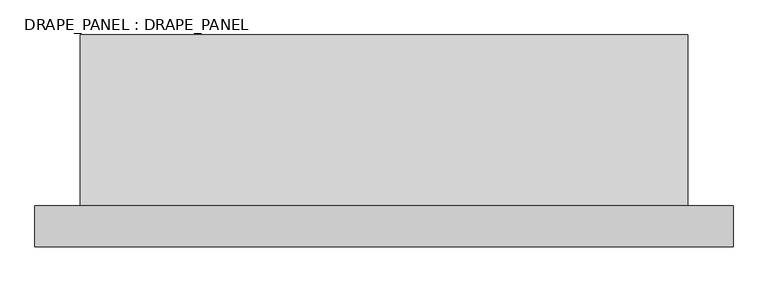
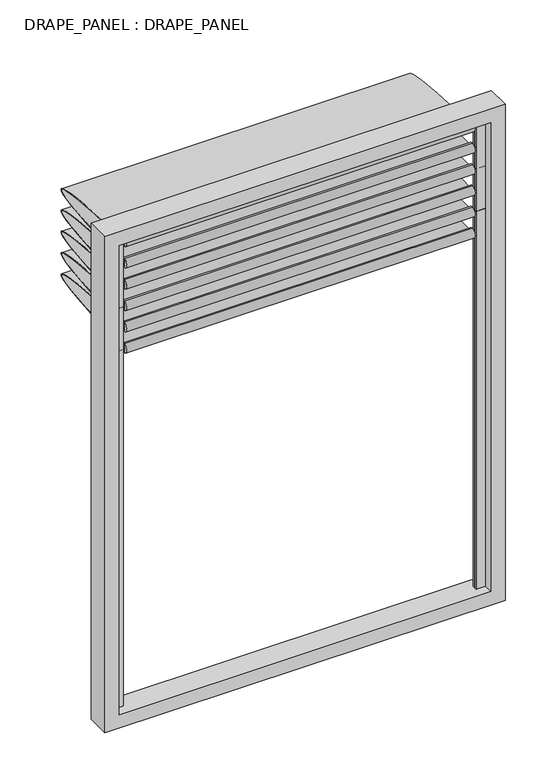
"""IFC4 building model written with IfcOpenShell, lengths in millimetres: plate geometry, DRAPE_PANEL : DRAPE_PANEL."""

from ifc_helpers import new_model, si_unit, point, frame, origin, place, context, project, spatial, polyline, circle_curve, ellipse_curve, trimmed, outline, extrude, source, transform, mapped, element, save
from ifc_brep_helpers import plane_surface, cylinder_surface, extruded_surface, advanced_brep


def drape_panel_drape_panel_1e58a187(model_context):
    return source(origin(), model_context, "Body", "SolidModel", [
        advanced_brep(
        [(-790.0, 0.0, 1851.5019792), (-790.0, 0.0, 1856.5019792), (-790.0, 0.0, 1846.5019792), (790.0, 0.0, 1846.5019792), (790.0, 0.0, 1856.5019792), (790.0, 0.0, 1851.5019792), (740.0, 0.0, 1846.5019792), (740.0, 0.0, 1856.5019792), (740.0, 0.0, 1831.5019792), (740.0, 0.0, 1871.5019792), (-740.0, 0.0, 1831.5019792), (-740.0, 0.0, 1871.5019792), (-740.0, 0.0, 1846.5019792), (-740.0, 0.0, 1856.5019792)],
        [
            (0, 1),
            (1, 2, circle_curve(frame((-790.0, 0.0, 1851.5019792), z_axis=(-1.0, 0.0, 0.0), x_axis=(0.0, 0.0, 1.0)), 5.0)),
            (2, 0),
            (2, 1, circle_curve(frame((-790.0, 0.0, 1851.5019792), z_axis=(-1.0, 0.0, 0.0), x_axis=(0.0, 0.0, 1.0)), 5.0)),
            (3, 4, circle_curve(frame((790.0, 0.0, 1851.5019792), z_axis=(1.0, 0.0, 0.0), x_axis=(0.0, 0.0, 1.0)), 5.0)),
            (4, 5),
            (5, 3),
            (4, 3, circle_curve(frame((790.0, 0.0, 1851.5019792), z_axis=(1.0, 0.0, 0.0), x_axis=(0.0, 0.0, 1.0)), 5.0)),
            (6, 7, circle_curve(frame((740.0, 0.0, 1851.5019792), z_axis=(1.0, 0.0, 0.0), x_axis=(0.0, 0.0, 1.0)), 5.0)),
            (7, 4),
            (3, 6),
            (7, 6, circle_curve(frame((740.0, 0.0, 1851.5019792), z_axis=(1.0, 0.0, 0.0), x_axis=(0.0, 0.0, 1.0)), 5.0)),
            (8, 9, circle_curve(frame((740.0, 0.0, 1851.5019792), z_axis=(1.0, 0.0, 0.0), x_axis=(0.0, 0.0, 1.0)), 20.0)),
            (9, 7),
            (6, 8),
            (9, 8, circle_curve(frame((740.0, 0.0, 1851.5019792), z_axis=(1.0, 0.0, 0.0), x_axis=(0.0, 0.0, 1.0)), 20.0)),
            (10, 11, circle_curve(frame((-740.0, 0.0, 1851.5019792), z_axis=(1.0, 0.0, 0.0), x_axis=(0.0, 0.0, 1.0)), 20.0)),
            (11, 9),
            (8, 10),
            (11, 10, circle_curve(frame((-740.0, 0.0, 1851.5019792), z_axis=(1.0, 0.0, 0.0), x_axis=(0.0, 0.0, 1.0)), 20.0)),
            (12, 13, circle_curve(frame((-740.0, 0.0, 1851.5019792), z_axis=(1.0, 0.0, 0.0), x_axis=(0.0, 0.0, 1.0)), 5.0)),
            (13, 11),
            (10, 12),
            (13, 12, circle_curve(frame((-740.0, 0.0, 1851.5019792), z_axis=(1.0, 0.0, 0.0), x_axis=(0.0, 0.0, 1.0)), 5.0)),
            (1, 13),
            (12, 2),
        ],
        [
            plane_surface(frame((-790.0, 0.0, 1851.5019792), z_axis=(-1.0, 0.0, 0.0), x_axis=(0.0, 0.0, 1.0))),
            plane_surface(frame((790.0, 0.0, 1851.5019792), z_axis=(1.0, 0.0, 0.0), x_axis=(0.0, 0.0, 1.0))),
            cylinder_surface(frame((6238.8752301, 0.0, 1851.5019792), z_axis=(-1.0, 0.0, 0.0), x_axis=(0.0, 0.0, 1.0)), 5.0),
            plane_surface(frame((740.0, 0.0, 1851.5019792), z_axis=(1.0, 0.0, 0.0), x_axis=(0.0, 0.0, 1.0))),
            cylinder_surface(frame((6238.8752301, 0.0, 1851.5019792), z_axis=(-1.0, 0.0, 0.0), x_axis=(0.0, 0.0, 1.0)), 20.0),
            plane_surface(frame((-740.0, 0.0, 1851.5019792), z_axis=(-1.0, 0.0, 0.0), x_axis=(0.0, 0.0, 1.0))),
        ],
        [
            (0, [[1, 2, 3]]),
            (0, [[-3, 4, -1]]),
            (1, [[5, 6, 7]]),
            (1, [[8, -7, -6]]),
            (2, [[9, 10, -5, 11]]),
            (2, [[12, -11, -8, -10]]),
            (3, [[13, 14, -9, 15]]),
            (3, [[16, -15, -12, -14]]),
            (4, [[17, 18, -13, 19]]),
            (4, [[20, -19, -16, -18]]),
            (5, [[21, 22, -17, 23]]),
            (5, [[24, -23, -20, -22]]),
            (2, [[-2, 25, -21, 26]]),
            (2, [[-4, -26, -24, -25]]),
        ],
    ),
        advanced_brep(
        [(740.0, 0.0, 1851.5019792), (740.0, 0.0, 1848.5019792), (740.0, 0.0, 1758.7509896), (740.0, 0.0, 1755.7509896), (-740.0, 0.0, 1851.5019792), (-740.0, 0.0, 1755.7509896), (-740.0, 0.0, 1758.7509896), (-740.0, 0.0, 1848.5019792)],
        [
            (0, 1),
            (1, 2, ellipse_curve(frame((740.0, 0.0, 1803.6264844), z_axis=(-1.0, 0.0, 0.0), x_axis=(0.0, -1.0, 0.0)), 462.4091228, 44.8754948)),
            (2, 3),
            (3, 0, ellipse_curve(frame((740.0, 0.0, 1803.6264844), z_axis=(1.0, 0.0, 0.0), x_axis=(0.0, 1.0, 0.0)), 465.4091228, 47.8754948)),
            (4, 5, ellipse_curve(frame((-740.0, 0.0, 1803.6264844), z_axis=(-1.0, 0.0, 0.0), x_axis=(0.0, 0.0, -1.0)), 47.8754948, 465.4091228)),
            (5, 6),
            (6, 7, ellipse_curve(frame((-740.0, 0.0, 1803.6264844), z_axis=(1.0, 0.0, 0.0), x_axis=(0.0, 0.0, -1.0)), 44.8754948, 462.4091228)),
            (7, 4),
            (0, 4),
            (7, 1),
            (6, 2),
            (5, 3),
        ],
        [
            plane_surface(frame((740.0, 0.0, 1851.5019792), z_axis=(1.0, 0.0, 0.0), x_axis=(0.0, -3.558757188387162e-12, -1.0))),
            plane_surface(frame((-740.0, 0.0, 1851.5019792), z_axis=(-1.0, 0.0, 0.0), x_axis=(0.0, 3.558757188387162e-12, 1.0))),
            plane_surface(frame((740.0, 0.0, 1851.5019792), z_axis=(0.0, -1.0, 3.558757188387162e-12), x_axis=(-1.0, 0.0, 0.0))),
            extruded_surface(trimmed(ellipse_curve(frame((-2220.0, 0.0, 1803.6264844), z_axis=(-1.0, 0.0, 0.0), x_axis=(0.0, 0.0, -1.0)), 44.8754948, 462.4091228), [point((-2220.0, 0.0, 1848.5019792))], [point((-2220.0, 0.0, 1758.7509896))], True, "CARTESIAN"), (1480.0, 0.0, 0.0), 1480.0),
            plane_surface(frame((740.0, 0.0, 1758.7509896), z_axis=(0.0, -1.0, 0.0), x_axis=(-1.0, 0.0, 0.0))),
            extruded_surface(trimmed(ellipse_curve(frame((-2220.0, 0.0, 1803.6264844), z_axis=(1.0, 0.0, 0.0), x_axis=(0.0, 0.0, -1.0)), 47.8754948, 465.4091228), [point((-2220.0, 0.0, 1755.7509896))], [point((-2220.0, 0.0, 1851.5019792))], True, "CARTESIAN"), (1480.0, 0.0, 0.0), 1480.0),
        ],
        [
            (0, [[1, 2, 3, 4]]),
            (1, [[5, 6, 7, 8]]),
            (2, [[-1, 9, -8, 10]]),
            (3, [[-2, -10, -7, 11]]),
            (4, [[-3, -11, -6, 12]]),
            (5, [[-4, -12, -5, -9]]),
        ],
    ),
        advanced_brep(
        [(-790.0, 0.0, 1947.2529688), (-790.0, 0.0, 1952.2529688), (-790.0, 0.0, 1942.2529688), (790.0, 0.0, 1942.2529688), (790.0, 0.0, 1952.2529688), (790.0, 0.0, 1947.2529688), (740.0, 0.0, 1942.2529688), (740.0, 0.0, 1952.2529688), (740.0, 0.0, 1927.2529688), (740.0, 0.0, 1967.2529688), (-740.0, 0.0, 1927.2529688), (-740.0, 0.0, 1967.2529688), (-740.0, 0.0, 1942.2529688), (-740.0, 0.0, 1952.2529688)],
        [
            (0, 1),
            (1, 2, circle_curve(frame((-790.0, 0.0, 1947.2529688), z_axis=(-1.0, 0.0, 0.0), x_axis=(0.0, 0.0, 1.0)), 5.0)),
            (2, 0),
            (2, 1, circle_curve(frame((-790.0, 0.0, 1947.2529688), z_axis=(-1.0, 0.0, 0.0), x_axis=(0.0, 0.0, 1.0)), 5.0)),
            (3, 4, circle_curve(frame((790.0, 0.0, 1947.2529688), z_axis=(1.0, 0.0, 0.0), x_axis=(0.0, 0.0, 1.0)), 5.0)),
            (4, 5),
            (5, 3),
            (4, 3, circle_curve(frame((790.0, 0.0, 1947.2529688), z_axis=(1.0, 0.0, 0.0), x_axis=(0.0, 0.0, 1.0)), 5.0)),
            (6, 7, circle_curve(frame((740.0, 0.0, 1947.2529688), z_axis=(1.0, 0.0, 0.0), x_axis=(0.0, 0.0, 1.0)), 5.0)),
            (7, 4),
            (3, 6),
            (7, 6, circle_curve(frame((740.0, 0.0, 1947.2529688), z_axis=(1.0, 0.0, 0.0), x_axis=(0.0, 0.0, 1.0)), 5.0)),
            (8, 9, circle_curve(frame((740.0, 0.0, 1947.2529688), z_axis=(1.0, 0.0, 0.0), x_axis=(0.0, 0.0, 1.0)), 20.0)),
            (9, 7),
            (6, 8),
            (9, 8, circle_curve(frame((740.0, 0.0, 1947.2529688), z_axis=(1.0, 0.0, 0.0), x_axis=(0.0, 0.0, 1.0)), 20.0)),
            (10, 11, circle_curve(frame((-740.0, 0.0, 1947.2529688), z_axis=(1.0, 0.0, 0.0), x_axis=(0.0, 0.0, 1.0)), 20.0)),
            (11, 9),
            (8, 10),
            (11, 10, circle_curve(frame((-740.0, 0.0, 1947.2529688), z_axis=(1.0, 0.0, 0.0), x_axis=(0.0, 0.0, 1.0)), 20.0)),
            (12, 13, circle_curve(frame((-740.0, 0.0, 1947.2529688), z_axis=(1.0, 0.0, 0.0), x_axis=(0.0, 0.0, 1.0)), 5.0)),
            (13, 11),
            (10, 12),
            (13, 12, circle_curve(frame((-740.0, 0.0, 1947.2529688), z_axis=(1.0, 0.0, 0.0), x_axis=(0.0, 0.0, 1.0)), 5.0)),
            (1, 13),
            (12, 2),
        ],
        [
            plane_surface(frame((-790.0, 0.0, 1947.2529688), z_axis=(-1.0, 0.0, 0.0), x_axis=(0.0, 0.0, 1.0))),
            plane_surface(frame((790.0, 0.0, 1947.2529688), z_axis=(1.0, 0.0, 0.0), x_axis=(0.0, 0.0, 1.0))),
            cylinder_surface(frame((6238.8752301, 0.0, 1947.2529688), z_axis=(-1.0, 0.0, 0.0), x_axis=(0.0, 0.0, 1.0)), 5.0),
            plane_surface(frame((740.0, 0.0, 1947.2529688), z_axis=(1.0, 0.0, 0.0), x_axis=(0.0, 0.0, 1.0))),
            cylinder_surface(frame((6238.8752301, 0.0, 1947.2529688), z_axis=(-1.0, 0.0, 0.0), x_axis=(0.0, 0.0, 1.0)), 20.0),
            plane_surface(frame((-740.0, 0.0, 1947.2529688), z_axis=(-1.0, 0.0, 0.0), x_axis=(0.0, 0.0, 1.0))),
        ],
        [
            (0, [[1, 2, 3]]),
            (0, [[-3, 4, -1]]),
            (1, [[5, 6, 7]]),
            (1, [[8, -7, -6]]),
            (2, [[9, 10, -5, 11]]),
            (2, [[12, -11, -8, -10]]),
            (3, [[13, 14, -9, 15]]),
            (3, [[16, -15, -12, -14]]),
            (4, [[17, 18, -13, 19]]),
            (4, [[20, -19, -16, -18]]),
            (5, [[21, 22, -17, 23]]),
            (5, [[24, -23, -20, -22]]),
            (2, [[-2, 25, -21, 26]]),
            (2, [[-4, -26, -24, -25]]),
        ],
    ),
        advanced_brep(
        [(740.0, 0.0, 1947.2529688), (740.0, 0.0, 1944.2529688), (740.0, 0.0, 1854.5019792), (740.0, 0.0, 1851.5019792), (-740.0, 0.0, 1947.2529688), (-740.0, 0.0, 1851.5019792), (-740.0, 0.0, 1854.5019792), (-740.0, 0.0, 1944.2529688)],
        [
            (0, 1),
            (1, 2, ellipse_curve(frame((740.0, 0.0, 1899.377474), z_axis=(-1.0, 0.0, 0.0), x_axis=(0.0, -1.0, 0.0)), 462.4091228, 44.8754948)),
            (2, 3),
            (3, 0, ellipse_curve(frame((740.0, 0.0, 1899.377474), z_axis=(1.0, 0.0, 0.0), x_axis=(0.0, 1.0, 0.0)), 465.4091228, 47.8754948)),
            (4, 5, ellipse_curve(frame((-740.0, 0.0, 1899.377474), z_axis=(-1.0, 0.0, 0.0), x_axis=(0.0, 0.0, -1.0)), 47.8754948, 465.4091228)),
            (5, 6),
            (6, 7, ellipse_curve(frame((-740.0, 0.0, 1899.377474), z_axis=(1.0, 0.0, 0.0), x_axis=(0.0, 0.0, -1.0)), 44.8754948, 462.4091228)),
            (7, 4),
            (0, 4),
            (7, 1),
            (6, 2),
            (5, 3),
        ],
        [
            plane_surface(frame((740.0, 0.0, 1947.2529688), z_axis=(1.0, 0.0, 0.0), x_axis=(0.0, -3.558757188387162e-12, -1.0))),
            plane_surface(frame((-740.0, 0.0, 1947.2529688), z_axis=(-1.0, 0.0, 0.0), x_axis=(0.0, 3.558757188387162e-12, 1.0))),
            plane_surface(frame((740.0, 0.0, 1947.2529688), z_axis=(0.0, -1.0, 3.558757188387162e-12), x_axis=(-1.0, 0.0, 0.0))),
            extruded_surface(trimmed(ellipse_curve(frame((-2220.0, 0.0, 1899.377474), z_axis=(-1.0, 0.0, 0.0), x_axis=(0.0, 0.0, -1.0)), 44.8754948, 462.4091228), [point((-2220.0, 0.0, 1944.2529688))], [point((-2220.0, 0.0, 1854.5019792))], True, "CARTESIAN"), (1480.0, 0.0, 0.0), 1480.0),
            plane_surface(frame((740.0, 0.0, 1854.5019792), z_axis=(0.0, -1.0, 0.0), x_axis=(-1.0, 0.0, 0.0))),
            extruded_surface(trimmed(ellipse_curve(frame((-2220.0, 0.0, 1899.377474), z_axis=(1.0, 0.0, 0.0), x_axis=(0.0, 0.0, -1.0)), 47.8754948, 465.4091228), [point((-2220.0, 0.0, 1851.5019792))], [point((-2220.0, 0.0, 1947.2529688))], True, "CARTESIAN"), (1480.0, 0.0, 0.0), 1480.0),
        ],
        [
            (0, [[1, 2, 3, 4]]),
            (1, [[5, 6, 7, 8]]),
            (2, [[-1, 9, -8, 10]]),
            (3, [[-2, -10, -7, 11]]),
            (4, [[-3, -11, -6, 12]]),
            (5, [[-4, -12, -5, -9]]),
        ],
    ),
        advanced_brep(
        [(-790.0, 0.0, 2043.0039583), (-790.0, 0.0, 2048.0039583), (-790.0, 0.0, 2038.0039583), (790.0, 0.0, 2038.0039583), (790.0, 0.0, 2048.0039583), (790.0, 0.0, 2043.0039583), (740.0, 0.0, 2038.0039583), (740.0, 0.0, 2048.0039583), (740.0, 0.0, 2023.0039583), (740.0, 0.0, 2063.0039583), (-740.0, 0.0, 2023.0039583), (-740.0, 0.0, 2063.0039583), (-740.0, 0.0, 2038.0039583), (-740.0, 0.0, 2048.0039583)],
        [
            (0, 1),
            (1, 2, circle_curve(frame((-790.0, 0.0, 2043.0039583), z_axis=(-1.0, 0.0, 0.0), x_axis=(0.0, 0.0, 1.0)), 5.0)),
            (2, 0),
            (2, 1, circle_curve(frame((-790.0, 0.0, 2043.0039583), z_axis=(-1.0, 0.0, 0.0), x_axis=(0.0, 0.0, 1.0)), 5.0)),
            (3, 4, circle_curve(frame((790.0, 0.0, 2043.0039583), z_axis=(1.0, 0.0, 0.0), x_axis=(0.0, 0.0, 1.0)), 5.0)),
            (4, 5),
            (5, 3),
            (4, 3, circle_curve(frame((790.0, 0.0, 2043.0039583), z_axis=(1.0, 0.0, 0.0), x_axis=(0.0, 0.0, 1.0)), 5.0)),
            (6, 7, circle_curve(frame((740.0, 0.0, 2043.0039583), z_axis=(1.0, 0.0, 0.0), x_axis=(0.0, 0.0, 1.0)), 5.0)),
            (7, 4),
            (3, 6),
            (7, 6, circle_curve(frame((740.0, 0.0, 2043.0039583), z_axis=(1.0, 0.0, 0.0), x_axis=(0.0, 0.0, 1.0)), 5.0)),
            (8, 9, circle_curve(frame((740.0, 0.0, 2043.0039583), z_axis=(1.0, 0.0, 0.0), x_axis=(0.0, 0.0, 1.0)), 20.0)),
            (9, 7),
            (6, 8),
            (9, 8, circle_curve(frame((740.0, 0.0, 2043.0039583), z_axis=(1.0, 0.0, 0.0), x_axis=(0.0, 0.0, 1.0)), 20.0)),
            (10, 11, circle_curve(frame((-740.0, 0.0, 2043.0039583), z_axis=(1.0, 0.0, 0.0), x_axis=(0.0, 0.0, 1.0)), 20.0)),
            (11, 9),
            (8, 10),
            (11, 10, circle_curve(frame((-740.0, 0.0, 2043.0039583), z_axis=(1.0, 0.0, 0.0), x_axis=(0.0, 0.0, 1.0)), 20.0)),
            (12, 13, circle_curve(frame((-740.0, 0.0, 2043.0039583), z_axis=(1.0, 0.0, 0.0), x_axis=(0.0, 0.0, 1.0)), 5.0)),
            (13, 11),
            (10, 12),
            (13, 12, circle_curve(frame((-740.0, 0.0, 2043.0039583), z_axis=(1.0, 0.0, 0.0), x_axis=(0.0, 0.0, 1.0)), 5.0)),
            (1, 13),
            (12, 2),
        ],
        [
            plane_surface(frame((-790.0, 0.0, 2043.0039583), z_axis=(-1.0, 0.0, 0.0), x_axis=(0.0, 0.0, 1.0))),
            plane_surface(frame((790.0, 0.0, 2043.0039583), z_axis=(1.0, 0.0, 0.0), x_axis=(0.0, 0.0, 1.0))),
            cylinder_surface(frame((6238.8752301, 0.0, 2043.0039583), z_axis=(-1.0, 0.0, 0.0), x_axis=(0.0, 0.0, 1.0)), 5.0),
            plane_surface(frame((740.0, 0.0, 2043.0039583), z_axis=(1.0, 0.0, 0.0), x_axis=(0.0, 0.0, 1.0))),
            cylinder_surface(frame((6238.8752301, 0.0, 2043.0039583), z_axis=(-1.0, 0.0, 0.0), x_axis=(0.0, 0.0, 1.0)), 20.0),
            plane_surface(frame((-740.0, 0.0, 2043.0039583), z_axis=(-1.0, 0.0, 0.0), x_axis=(0.0, 0.0, 1.0))),
        ],
        [
            (0, [[1, 2, 3]]),
            (0, [[-3, 4, -1]]),
            (1, [[5, 6, 7]]),
            (1, [[8, -7, -6]]),
            (2, [[9, 10, -5, 11]]),
            (2, [[12, -11, -8, -10]]),
            (3, [[13, 14, -9, 15]]),
            (3, [[16, -15, -12, -14]]),
            (4, [[17, 18, -13, 19]]),
            (4, [[20, -19, -16, -18]]),
            (5, [[21, 22, -17, 23]]),
            (5, [[24, -23, -20, -22]]),
            (2, [[-2, 25, -21, 26]]),
            (2, [[-4, -26, -24, -25]]),
        ],
    ),
        advanced_brep(
        [(740.0, 0.0, 2043.0039583), (740.0, 0.0, 2040.0039583), (740.0, 0.0, 1950.2529688), (740.0, 0.0, 1947.2529688), (-740.0, 0.0, 2043.0039583), (-740.0, 0.0, 1947.2529688), (-740.0, 0.0, 1950.2529688), (-740.0, 0.0, 2040.0039583)],
        [
            (0, 1),
            (1, 2, ellipse_curve(frame((740.0, 0.0, 1995.1284635), z_axis=(-1.0, 0.0, 0.0), x_axis=(0.0, -1.0, 0.0)), 462.4091228, 44.8754948)),
            (2, 3),
            (3, 0, ellipse_curve(frame((740.0, 0.0, 1995.1284635), z_axis=(1.0, 0.0, 0.0), x_axis=(0.0, 1.0, 0.0)), 465.4091228, 47.8754948)),
            (4, 5, ellipse_curve(frame((-740.0, 0.0, 1995.1284635), z_axis=(-1.0, 0.0, 0.0), x_axis=(0.0, 0.0, -1.0)), 47.8754948, 465.4091228)),
            (5, 6),
            (6, 7, ellipse_curve(frame((-740.0, 0.0, 1995.1284635), z_axis=(1.0, 0.0, 0.0), x_axis=(0.0, 0.0, -1.0)), 44.8754948, 462.4091228)),
            (7, 4),
            (0, 4),
            (7, 1),
            (6, 2),
            (5, 3),
        ],
        [
            plane_surface(frame((740.0, 0.0, 2043.0039583), z_axis=(1.0, 0.0, 0.0), x_axis=(0.0, -3.558757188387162e-12, -1.0))),
            plane_surface(frame((-740.0, 0.0, 2043.0039583), z_axis=(-1.0, 0.0, 0.0), x_axis=(0.0, 3.558757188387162e-12, 1.0))),
            plane_surface(frame((740.0, 0.0, 2043.0039583), z_axis=(0.0, -1.0, 3.558757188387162e-12), x_axis=(-1.0, 0.0, 0.0))),
            extruded_surface(trimmed(ellipse_curve(frame((-2220.0, 0.0, 1995.1284635), z_axis=(-1.0, 0.0, 0.0), x_axis=(0.0, 0.0, -1.0)), 44.8754948, 462.4091228), [point((-2220.0, 0.0, 2040.0039583))], [point((-2220.0, 0.0, 1950.2529687))], True, "CARTESIAN"), (1480.0, 0.0, 0.0), 1480.0),
            plane_surface(frame((740.0, 0.0, 1950.2529688), z_axis=(0.0, -1.0, 0.0), x_axis=(-1.0, 0.0, 0.0))),
            extruded_surface(trimmed(ellipse_curve(frame((-2220.0, 0.0, 1995.1284635), z_axis=(1.0, 0.0, 0.0), x_axis=(0.0, 0.0, -1.0)), 47.8754948, 465.4091228), [point((-2220.0, 0.0, 1947.2529688))], [point((-2220.0, 0.0, 2043.0039583))], True, "CARTESIAN"), (1480.0, 0.0, 0.0), 1480.0),
        ],
        [
            (0, [[1, 2, 3, 4]]),
            (1, [[5, 6, 7, 8]]),
            (2, [[-1, 9, -8, 10]]),
            (3, [[-2, -10, -7, 11]]),
            (4, [[-3, -11, -6, 12]]),
            (5, [[-4, -12, -5, -9]]),
        ],
    ),
        advanced_brep(
        [(-790.0, 0.0, 1755.7509896), (-790.0, 0.0, 1760.7509896), (-790.0, 0.0, 1750.7509896), (790.0, 0.0, 1750.7509896), (790.0, 0.0, 1760.7509896), (790.0, 0.0, 1755.7509896), (740.0, 0.0, 1750.7509896), (740.0, 0.0, 1760.7509896), (740.0, 0.0, 1735.7509896), (740.0, 0.0, 1775.7509896), (-740.0, 0.0, 1735.7509896), (-740.0, 0.0, 1775.7509896), (-740.0, 0.0, 1750.7509896), (-740.0, 0.0, 1760.7509896)],
        [
            (0, 1),
            (1, 2, circle_curve(frame((-790.0, 0.0, 1755.7509896), z_axis=(-1.0, 0.0, 0.0), x_axis=(0.0, 0.0, 1.0)), 5.0)),
            (2, 0),
            (2, 1, circle_curve(frame((-790.0, 0.0, 1755.7509896), z_axis=(-1.0, 0.0, 0.0), x_axis=(0.0, 0.0, 1.0)), 5.0)),
            (3, 4, circle_curve(frame((790.0, 0.0, 1755.7509896), z_axis=(1.0, 0.0, 0.0), x_axis=(0.0, 0.0, 1.0)), 5.0)),
            (4, 5),
            (5, 3),
            (4, 3, circle_curve(frame((790.0, 0.0, 1755.7509896), z_axis=(1.0, 0.0, 0.0), x_axis=(0.0, 0.0, 1.0)), 5.0)),
            (6, 7, circle_curve(frame((740.0, 0.0, 1755.7509896), z_axis=(1.0, 0.0, 0.0), x_axis=(0.0, 0.0, 1.0)), 5.0)),
            (7, 4),
            (3, 6),
            (7, 6, circle_curve(frame((740.0, 0.0, 1755.7509896), z_axis=(1.0, 0.0, 0.0), x_axis=(0.0, 0.0, 1.0)), 5.0)),
            (8, 9, circle_curve(frame((740.0, 0.0, 1755.7509896), z_axis=(1.0, 0.0, 0.0), x_axis=(0.0, 0.0, 1.0)), 20.0)),
            (9, 7),
            (6, 8),
            (9, 8, circle_curve(frame((740.0, 0.0, 1755.7509896), z_axis=(1.0, 0.0, 0.0), x_axis=(0.0, 0.0, 1.0)), 20.0)),
            (10, 11, circle_curve(frame((-740.0, 0.0, 1755.7509896), z_axis=(1.0, 0.0, 0.0), x_axis=(0.0, 0.0, 1.0)), 20.0)),
            (11, 9),
            (8, 10),
            (11, 10, circle_curve(frame((-740.0, 0.0, 1755.7509896), z_axis=(1.0, 0.0, 0.0), x_axis=(0.0, 0.0, 1.0)), 20.0)),
            (12, 13, circle_curve(frame((-740.0, 0.0, 1755.7509896), z_axis=(1.0, 0.0, 0.0), x_axis=(0.0, 0.0, 1.0)), 5.0)),
            (13, 11),
            (10, 12),
            (13, 12, circle_curve(frame((-740.0, 0.0, 1755.7509896), z_axis=(1.0, 0.0, 0.0), x_axis=(0.0, 0.0, 1.0)), 5.0)),
            (1, 13),
            (12, 2),
        ],
        [
            plane_surface(frame((-790.0, 0.0, 1755.7509896), z_axis=(-1.0, 0.0, 0.0), x_axis=(0.0, 0.0, 1.0))),
            plane_surface(frame((790.0, 0.0, 1755.7509896), z_axis=(1.0, 0.0, 0.0), x_axis=(0.0, 0.0, 1.0))),
            cylinder_surface(frame((6238.8752301, 0.0, 1755.7509896), z_axis=(-1.0, 0.0, 0.0), x_axis=(0.0, 0.0, 1.0)), 5.0),
            plane_surface(frame((740.0, 0.0, 1755.7509896), z_axis=(1.0, 0.0, 0.0), x_axis=(0.0, 0.0, 1.0))),
            cylinder_surface(frame((6238.8752301, 0.0, 1755.7509896), z_axis=(-1.0, 0.0, 0.0), x_axis=(0.0, 0.0, 1.0)), 20.0),
            plane_surface(frame((-740.0, 0.0, 1755.7509896), z_axis=(-1.0, 0.0, 0.0), x_axis=(0.0, 0.0, 1.0))),
        ],
        [
            (0, [[1, 2, 3]]),
            (0, [[-3, 4, -1]]),
            (1, [[5, 6, 7]]),
            (1, [[8, -7, -6]]),
            (2, [[9, 10, -5, 11]]),
            (2, [[12, -11, -8, -10]]),
            (3, [[13, 14, -9, 15]]),
            (3, [[16, -15, -12, -14]]),
            (4, [[17, 18, -13, 19]]),
            (4, [[20, -19, -16, -18]]),
            (5, [[21, 22, -17, 23]]),
            (5, [[24, -23, -20, -22]]),
            (2, [[-2, 25, -21, 26]]),
            (2, [[-4, -26, -24, -25]]),
        ],
    ),
        advanced_brep(
        [(740.0, 0.0, 1755.7509896), (740.0, 0.0, 1752.7509896), (740.0, 0.0, 1663.0), (740.0, 0.0, 1660.0), (-740.0, 0.0, 1755.7509896), (-740.0, 0.0, 1660.0), (-740.0, 0.0, 1663.0), (-740.0, 0.0, 1752.7509896)],
        [
            (0, 1),
            (1, 2, ellipse_curve(frame((740.0, 0.0, 1707.8754948), z_axis=(-1.0, 0.0, 0.0), x_axis=(0.0, -1.0, 0.0)), 462.4091228, 44.8754948)),
            (2, 3),
            (3, 0, ellipse_curve(frame((740.0, 0.0, 1707.8754948), z_axis=(1.0, 0.0, 0.0), x_axis=(0.0, 1.0, 0.0)), 465.4091228, 47.8754948)),
            (4, 5, ellipse_curve(frame((-740.0, 0.0, 1707.8754948), z_axis=(-1.0, 0.0, 0.0), x_axis=(0.0, 0.0, -1.0)), 47.8754948, 465.4091228)),
            (5, 6),
            (6, 7, ellipse_curve(frame((-740.0, 0.0, 1707.8754948), z_axis=(1.0, 0.0, 0.0), x_axis=(0.0, 0.0, -1.0)), 44.8754948, 462.4091228)),
            (7, 4),
            (0, 4),
            (7, 1),
            (6, 2),
            (5, 3),
        ],
        [
            plane_surface(frame((740.0, 0.0, 1755.7509896), z_axis=(1.0, 0.0, 0.0), x_axis=(0.0, -3.558757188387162e-12, -1.0))),
            plane_surface(frame((-740.0, 0.0, 1755.7509896), z_axis=(-1.0, 0.0, 0.0), x_axis=(0.0, 3.558757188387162e-12, 1.0))),
            plane_surface(frame((740.0, 0.0, 1755.7509896), z_axis=(0.0, -1.0, 3.558757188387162e-12), x_axis=(-1.0, 0.0, 0.0))),
            extruded_surface(trimmed(ellipse_curve(frame((-2220.0, 0.0, 1707.8754948), z_axis=(-1.0, 0.0, 0.0), x_axis=(0.0, 0.0, -1.0)), 44.8754948, 462.4091228), [point((-2220.0, 0.0, 1752.7509896))], [point((-2220.0, 0.0, 1663.0))], True, "CARTESIAN"), (1480.0, 0.0, 0.0), 1480.0),
            plane_surface(frame((740.0, 0.0, 1663.0), z_axis=(0.0, -1.0, 0.0), x_axis=(-1.0, 0.0, 0.0))),
            extruded_surface(trimmed(ellipse_curve(frame((-2220.0, 0.0, 1707.8754948), z_axis=(1.0, 0.0, 0.0), x_axis=(0.0, 0.0, -1.0)), 47.8754948, 465.4091228), [point((-2220.0, 0.0, 1660.0))], [point((-2220.0, 0.0, 1755.7509896))], True, "CARTESIAN"), (1480.0, 0.0, 0.0), 1480.0),
        ],
        [
            (0, [[1, 2, 3, 4]]),
            (1, [[5, 6, 7, 8]]),
            (2, [[-1, 9, -8, 10]]),
            (3, [[-2, -10, -7, 11]]),
            (4, [[-3, -11, -6, 12]]),
            (5, [[-4, -12, -5, -9]]),
        ],
    ),
        advanced_brep(
        [(-790.0, 0.0, 2138.7549479), (-790.0, 0.0, 2143.7549479), (-790.0, 0.0, 2133.7549479), (790.0, 0.0, 2133.7549479), (790.0, 0.0, 2143.7549479), (790.0, 0.0, 2138.7549479), (740.0, 0.0, 2133.7549479), (740.0, 0.0, 2143.7549479), (740.0, 0.0, 2118.7549479), (740.0, 0.0, 2158.7549479), (-740.0, 0.0, 2118.7549479), (-740.0, 0.0, 2158.7549479), (-740.0, 0.0, 2133.7549479), (-740.0, 0.0, 2143.7549479)],
        [
            (0, 1),
            (1, 2, circle_curve(frame((-790.0, 0.0, 2138.7549479), z_axis=(-1.0, 0.0, 0.0), x_axis=(0.0, 0.0, 1.0)), 5.0)),
            (2, 0),
            (2, 1, circle_curve(frame((-790.0, 0.0, 2138.7549479), z_axis=(-1.0, 0.0, 0.0), x_axis=(0.0, 0.0, 1.0)), 5.0)),
            (3, 4, circle_curve(frame((790.0, 0.0, 2138.7549479), z_axis=(1.0, 0.0, 0.0), x_axis=(0.0, 0.0, 1.0)), 5.0)),
            (4, 5),
            (5, 3),
            (4, 3, circle_curve(frame((790.0, 0.0, 2138.7549479), z_axis=(1.0, 0.0, 0.0), x_axis=(0.0, 0.0, 1.0)), 5.0)),
            (6, 7, circle_curve(frame((740.0, 0.0, 2138.7549479), z_axis=(1.0, 0.0, 0.0), x_axis=(0.0, 0.0, 1.0)), 5.0)),
            (7, 4),
            (3, 6),
            (7, 6, circle_curve(frame((740.0, 0.0, 2138.7549479), z_axis=(1.0, 0.0, 0.0), x_axis=(0.0, 0.0, 1.0)), 5.0)),
            (8, 9, circle_curve(frame((740.0, 0.0, 2138.7549479), z_axis=(1.0, 0.0, 0.0), x_axis=(0.0, 0.0, 1.0)), 20.0)),
            (9, 7),
            (6, 8),
            (9, 8, circle_curve(frame((740.0, 0.0, 2138.7549479), z_axis=(1.0, 0.0, 0.0), x_axis=(0.0, 0.0, 1.0)), 20.0)),
            (10, 11, circle_curve(frame((-740.0, 0.0, 2138.7549479), z_axis=(1.0, 0.0, 0.0), x_axis=(0.0, 0.0, 1.0)), 20.0)),
            (11, 9),
            (8, 10),
            (11, 10, circle_curve(frame((-740.0, 0.0, 2138.7549479), z_axis=(1.0, 0.0, 0.0), x_axis=(0.0, 0.0, 1.0)), 20.0)),
            (12, 13, circle_curve(frame((-740.0, 0.0, 2138.7549479), z_axis=(1.0, 0.0, 0.0), x_axis=(0.0, 0.0, 1.0)), 5.0)),
            (13, 11),
            (10, 12),
            (13, 12, circle_curve(frame((-740.0, 0.0, 2138.7549479), z_axis=(1.0, 0.0, 0.0), x_axis=(0.0, 0.0, 1.0)), 5.0)),
            (1, 13),
            (12, 2),
        ],
        [
            plane_surface(frame((-790.0, 0.0, 2138.7549479), z_axis=(-1.0, 0.0, 0.0), x_axis=(0.0, 0.0, 1.0))),
            plane_surface(frame((790.0, 0.0, 2138.7549479), z_axis=(1.0, 0.0, 0.0), x_axis=(0.0, 0.0, 1.0))),
            cylinder_surface(frame((6238.8752301, 0.0, 2138.7549479), z_axis=(-1.0, 0.0, 0.0), x_axis=(0.0, 0.0, 1.0)), 5.0),
            plane_surface(frame((740.0, 0.0, 2138.7549479), z_axis=(1.0, 0.0, 0.0), x_axis=(0.0, 0.0, 1.0))),
            cylinder_surface(frame((6238.8752301, 0.0, 2138.7549479), z_axis=(-1.0, 0.0, 0.0), x_axis=(0.0, 0.0, 1.0)), 20.0),
            plane_surface(frame((-740.0, 0.0, 2138.7549479), z_axis=(-1.0, 0.0, 0.0), x_axis=(0.0, 0.0, 1.0))),
        ],
        [
            (0, [[1, 2, 3]]),
            (0, [[-3, 4, -1]]),
            (1, [[5, 6, 7]]),
            (1, [[8, -7, -6]]),
            (2, [[9, 10, -5, 11]]),
            (2, [[12, -11, -8, -10]]),
            (3, [[13, 14, -9, 15]]),
            (3, [[16, -15, -12, -14]]),
            (4, [[17, 18, -13, 19]]),
            (4, [[20, -19, -16, -18]]),
            (5, [[21, 22, -17, 23]]),
            (5, [[24, -23, -20, -22]]),
            (2, [[-2, 25, -21, 26]]),
            (2, [[-4, -26, -24, -25]]),
        ],
    ),
        advanced_brep(
        [(740.0, 0.0, 2138.7549479), (740.0, 0.0, 2135.7549479), (740.0, 0.0, 2046.0039583), (740.0, 0.0, 2043.0039583), (-740.0, 0.0, 2138.7549479), (-740.0, 0.0, 2043.0039583), (-740.0, 0.0, 2046.0039583), (-740.0, 0.0, 2135.7549479)],
        [
            (0, 1),
            (1, 2, ellipse_curve(frame((740.0, 0.0, 2090.8794531), z_axis=(-1.0, 0.0, 0.0), x_axis=(0.0, -1.0, 0.0)), 462.4091228, 44.8754948)),
            (2, 3),
            (3, 0, ellipse_curve(frame((740.0, 0.0, 2090.8794531), z_axis=(1.0, 0.0, 0.0), x_axis=(0.0, 1.0, 0.0)), 465.4091228, 47.8754948)),
            (4, 5, ellipse_curve(frame((-740.0, 0.0, 2090.8794531), z_axis=(-1.0, 0.0, 0.0), x_axis=(0.0, 0.0, -1.0)), 47.8754948, 465.4091228)),
            (5, 6),
            (6, 7, ellipse_curve(frame((-740.0, 0.0, 2090.8794531), z_axis=(1.0, 0.0, 0.0), x_axis=(0.0, 0.0, -1.0)), 44.8754948, 462.4091228)),
            (7, 4),
            (0, 4),
            (7, 1),
            (6, 2),
            (5, 3),
        ],
        [
            plane_surface(frame((740.0, 0.0, 2138.7549479), z_axis=(1.0, 0.0, 0.0), x_axis=(0.0, -3.558757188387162e-12, -1.0))),
            plane_surface(frame((-740.0, 0.0, 2138.7549479), z_axis=(-1.0, 0.0, 0.0), x_axis=(0.0, 3.558757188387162e-12, 1.0))),
            plane_surface(frame((740.0, 0.0, 2138.7549479), z_axis=(0.0, -1.0, 3.558757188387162e-12), x_axis=(-1.0, 0.0, 0.0))),
            extruded_surface(trimmed(ellipse_curve(frame((-2220.0, 0.0, 2090.8794531), z_axis=(-1.0, 0.0, 0.0), x_axis=(0.0, 0.0, -1.0)), 44.8754948, 462.4091228), [point((-2220.0, 0.0, 2135.7549479))], [point((-2220.0, 0.0, 2046.0039583))], True, "CARTESIAN"), (1480.0, 0.0, 0.0), 1480.0),
            plane_surface(frame((740.0, 0.0, 2046.0039583), z_axis=(0.0, -1.0, 0.0), x_axis=(-1.0, 0.0, 0.0))),
            extruded_surface(trimmed(ellipse_curve(frame((-2220.0, 0.0, 2090.8794531), z_axis=(1.0, 0.0, 0.0), x_axis=(0.0, 0.0, -1.0)), 47.8754948, 465.4091228), [point((-2220.0, 0.0, 2043.0039583))], [point((-2220.0, 0.0, 2138.7549479))], True, "CARTESIAN"), (1480.0, 0.0, 0.0), 1480.0),
        ],
        [
            (0, [[1, 2, 3, 4]]),
            (1, [[5, 6, 7, 8]]),
            (2, [[-1, 9, -8, 10]]),
            (3, [[-2, -10, -7, 11]]),
            (4, [[-3, -11, -6, 12]]),
            (5, [[-4, -12, -5, -9]]),
        ],
    ),
        extrude(outline(polyline([(750.0, 5.0), (750.0, 10.0), (790.0, 10.0), (790.0, -10.0), (750.0, -10.0), (750.0, -5.0), (785.0, -5.0), (785.0, 5.0), (750.0, 5.0)])), frame((0.0, 0.0, 60.0), z_axis=(0.0, 0.0, 1.0), x_axis=(1.0, 0.0, 0.0)), (0.0, 0.0, 1.0), 2108.7549479),
        extrude(outline(polyline([(-750.0, 5.0), (-785.0, 5.0), (-785.0, -5.0), (-750.0, -5.0), (-750.0, -10.0), (-790.0, -10.0), (-790.0, 10.0), (-750.0, 10.0), (-750.0, 5.0)])), frame((0.0, 0.0, 60.0), z_axis=(0.0, 0.0, 1.0), x_axis=(1.0, 0.0, 0.0)), (0.0, 0.0, 1.0), 2108.7549479),
        advanced_brep(
        [(740.0, 0.0, 1655.0), (740.0, 0.0, 1665.0), (790.0, 0.0, 1665.0), (790.0, 0.0, 1655.0), (740.0, 0.0, 1640.0), (740.0, 0.0, 1680.0), (-740.0, 0.0, 1640.0), (-740.0, 0.0, 1680.0), (-740.0, 0.0, 1655.0), (-740.0, 0.0, 1665.0), (-790.0, 0.0, 1655.0), (-790.0, 0.0, 1665.0), (-790.0, 0.0, 1660.0), (790.0, 0.0, 1660.0)],
        [
            (0, 1, circle_curve(frame((740.0, 0.0, 1660.0), z_axis=(1.0, 0.0, 0.0), x_axis=(0.0, 0.0, 1.0)), 5.0)),
            (1, 2),
            (2, 3, circle_curve(frame((790.0, 0.0, 1660.0), z_axis=(-1.0, 0.0, 0.0), x_axis=(0.0, 0.0, 1.0)), 5.0)),
            (3, 0),
            (1, 0, circle_curve(frame((740.0, 0.0, 1660.0), z_axis=(1.0, 0.0, 0.0), x_axis=(0.0, 0.0, 1.0)), 5.0)),
            (3, 2, circle_curve(frame((790.0, 0.0, 1660.0), z_axis=(-1.0, 0.0, 0.0), x_axis=(0.0, 0.0, 1.0)), 5.0)),
            (4, 5, circle_curve(frame((740.0, 0.0, 1660.0), z_axis=(1.0, 0.0, 0.0), x_axis=(0.0, 0.0, 1.0)), 20.0)),
            (5, 1),
            (0, 4),
            (5, 4, circle_curve(frame((740.0, 0.0, 1660.0), z_axis=(1.0, 0.0, 0.0), x_axis=(0.0, 0.0, 1.0)), 20.0)),
            (6, 7, circle_curve(frame((-740.0, 0.0, 1660.0), z_axis=(1.0, 0.0, 0.0), x_axis=(0.0, 0.0, 1.0)), 20.0)),
            (7, 5),
            (4, 6),
            (7, 6, circle_curve(frame((-740.0, 0.0, 1660.0), z_axis=(1.0, 0.0, 0.0), x_axis=(0.0, 0.0, 1.0)), 20.0)),
            (8, 9, circle_curve(frame((-740.0, 0.0, 1660.0), z_axis=(1.0, 0.0, 0.0), x_axis=(0.0, 0.0, 1.0)), 5.0)),
            (9, 7),
            (6, 8),
            (9, 8, circle_curve(frame((-740.0, 0.0, 1660.0), z_axis=(1.0, 0.0, 0.0), x_axis=(0.0, 0.0, 1.0)), 5.0)),
            (10, 11, circle_curve(frame((-790.0, 0.0, 1660.0), z_axis=(1.0, 0.0, 0.0), x_axis=(0.0, 0.0, 1.0)), 5.0)),
            (11, 9),
            (8, 10),
            (11, 10, circle_curve(frame((-790.0, 0.0, 1660.0), z_axis=(1.0, 0.0, 0.0), x_axis=(0.0, 0.0, 1.0)), 5.0)),
            (12, 11),
            (10, 12),
            (2, 13),
            (13, 3),
        ],
        [
            cylinder_surface(frame((9550.0, 0.0, 1660.0), z_axis=(-1.0, 0.0, 0.0), x_axis=(0.0, 0.0, 1.0)), 5.0),
            plane_surface(frame((740.0, 0.0, 1660.0), z_axis=(1.0, 0.0, 0.0), x_axis=(0.0, 0.0, 1.0))),
            cylinder_surface(frame((9550.0, 0.0, 1660.0), z_axis=(-1.0, 0.0, 0.0), x_axis=(0.0, 0.0, 1.0)), 20.0),
            plane_surface(frame((-740.0, 0.0, 1660.0), z_axis=(-1.0, 0.0, 0.0), x_axis=(0.0, 0.0, 1.0))),
            plane_surface(frame((-790.0, 0.0, 1660.0), z_axis=(-1.0, 0.0, 0.0), x_axis=(0.0, 0.0, 1.0))),
            plane_surface(frame((790.0, 0.0, 1660.0), z_axis=(1.0, 0.0, 0.0), x_axis=(0.0, 0.0, 1.0))),
        ],
        [
            (0, [[1, 2, 3, 4]]),
            (0, [[5, -4, 6, -2]]),
            (1, [[7, 8, -1, 9]]),
            (1, [[10, -9, -5, -8]]),
            (2, [[11, 12, -7, 13]]),
            (2, [[14, -13, -10, -12]]),
            (3, [[15, 16, -11, 17]]),
            (3, [[18, -17, -14, -16]]),
            (0, [[19, 20, -15, 21]]),
            (0, [[22, -21, -18, -20]]),
            (4, [[23, -19, 24]]),
            (4, [[-24, -22, -23]]),
            (5, [[-3, 25, 26]]),
            (5, [[-6, -26, -25]]),
        ],
    ),
        extrude(outline(polyline([(2228.7549479, -850.0), (0.0, -850.0), (0.0, 850.0), (2228.7549479, 850.0), (2228.7549479, -850.0)]), holes=[polyline([(2168.7549479, -790.0), (2168.7549479, 790.0), (60.0, 790.0), (60.0, -790.0), (2168.7549479, -790.0)])]), frame((0.0, -50.0, 0.0), z_axis=(0.0, 1.0, 0.0), x_axis=(0.0, 0.0, 1.0)), (0.0, 0.0, 1.0), 100.0),
    ])


if __name__ == "__main__":
    model = new_model("IFC4")
    model_context = context("Model", 3, world=origin())
    ifc_project = project(units=[si_unit("LENGTHUNIT", "METRE", prefix="MILLI")], contexts=[model_context])
    site = spatial("IfcSite", under=ifc_project)
    building = spatial("IfcBuilding", under=site)
    placement = place(None, origin())
    drape_panel_drape_panel_shape = drape_panel_drape_panel_1e58a187(model_context)
    element("IfcPlate", 1, ObjectType="DRAPE_PANEL : DRAPE_PANEL", at=placement, inside=building, context=model_context, shape_type="MappedRepresentation", body=[
        mapped(drape_panel_drape_panel_shape, transform((0.0, 0.0, 0.0), x_axis=(1.0, 0.0, 0.0), y_axis=(0.0, 1.0, 0.0), z_axis=(0.0, 0.0, 1.0))),
    ])
    save(model, "model.ifc")
